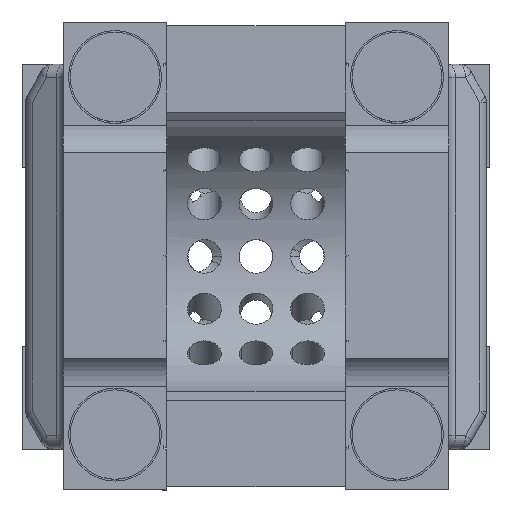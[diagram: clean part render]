
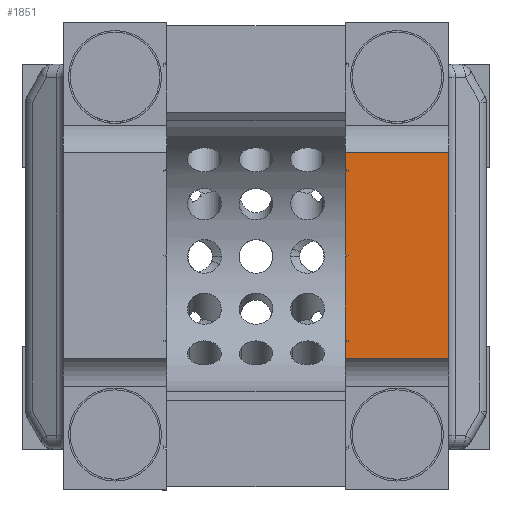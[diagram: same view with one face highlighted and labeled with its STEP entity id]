
A CAD part, top view. The second image highlights one B-rep face of the part: STEP entity #1851.
In plain terms, the highlighted planar face has unit normal (0, 0, 1).
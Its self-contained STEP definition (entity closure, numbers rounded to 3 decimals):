
#1851=ADVANCED_FACE('Solid.14',(#4083),#4084,.T.);
#4083=FACE_OUTER_BOUND('',#6708,.T.);
#4084=PLANE('',#6709);
#6708=EDGE_LOOP('',(#11981,#11982,#11983,#11984,#11985,#11986,#11987,#11988,#11989,#11990,#11991,#11992,#11993));
#6709=AXIS2_PLACEMENT_3D('',#11994,#11995,#11996);
#11981=ORIENTED_EDGE('',*,*,#16831,.T.);
#11982=ORIENTED_EDGE('',*,*,#17013,.T.);
#11983=ORIENTED_EDGE('',*,*,#16814,.F.);
#11984=ORIENTED_EDGE('',*,*,#17011,.F.);
#11985=ORIENTED_EDGE('',*,*,#16867,.T.);
#11986=ORIENTED_EDGE('',*,*,#16900,.F.);
#11987=ORIENTED_EDGE('',*,*,#16904,.T.);
#11988=ORIENTED_EDGE('',*,*,#16910,.T.);
#11989=ORIENTED_EDGE('',*,*,#16942,.T.);
#11990=ORIENTED_EDGE('',*,*,#16945,.F.);
#11991=ORIENTED_EDGE('',*,*,#16951,.T.);
#11992=ORIENTED_EDGE('',*,*,#16982,.F.);
#11993=ORIENTED_EDGE('',*,*,#16985,.T.);
#11994=CARTESIAN_POINT('',(13.0,15.0,56.25));
#11995=DIRECTION('',(0.,0.,1.0));
#11996=DIRECTION('',(0.,-1.0,0.));
#16814=EDGE_CURVE('',#20366,#20368,#20369,.T.);
#16831=EDGE_CURVE('',#20395,#20393,#20396,.T.);
#16867=EDGE_CURVE('',#20448,#20446,#20449,.T.);
#16900=EDGE_CURVE('',#20493,#20446,#20494,.T.);
#16904=EDGE_CURVE('',#20493,#20497,#20499,.T.);
#16910=EDGE_CURVE('',#20497,#20506,#20508,.T.);
#16942=EDGE_CURVE('',#20506,#20549,#20551,.T.);
#16945=EDGE_CURVE('',#20553,#20549,#20555,.T.);
#16951=EDGE_CURVE('',#20553,#20562,#20564,.T.);
#16982=EDGE_CURVE('',#20605,#20562,#20606,.T.);
#16985=EDGE_CURVE('',#20605,#20395,#20609,.T.);
#17011=EDGE_CURVE('',#20448,#20366,#20641,.T.);
#17013=EDGE_CURVE('',#20393,#20368,#20643,.T.);
#20366=VERTEX_POINT('',#27995);
#20368=VERTEX_POINT('',#27997);
#20369=LINE('',#27998,#27999);
#20393=VERTEX_POINT('',#28032);
#20395=VERTEX_POINT('',#28034);
#20396=LINE('',#28035,#28036);
#20446=VERTEX_POINT('',#28111);
#20448=VERTEX_POINT('',#28114);
#20449=LINE('',#28115,#28116);
#20493=VERTEX_POINT('',#28182);
#20494=LINE('',#28183,#28184);
#20497=VERTEX_POINT('',#28188);
#20499=LINE('',#28191,#28192);
#20506=VERTEX_POINT('',#28202);
#20508=LINE('',#28205,#28206);
#20549=VERTEX_POINT('',#28268);
#20551=LINE('',#28271,#28272);
#20553=VERTEX_POINT('',#28274);
#20555=LINE('',#28277,#28278);
#20562=VERTEX_POINT('',#28288);
#20564=LINE('',#28291,#28292);
#20605=VERTEX_POINT('',#28354);
#20606=LINE('',#28355,#28356);
#20609=LINE('',#28360,#28361);
#20641=LINE('',#28406,#28407);
#20643=LINE('',#28409,#28410);
#27995=CARTESIAN_POINT('',(28.0,15.0,56.25));
#27997=CARTESIAN_POINT('',(28.,-15.0,56.25));
#27998=CARTESIAN_POINT('',(28.,0.,56.25));
#27999=VECTOR('',#32910,1.0);
#28032=CARTESIAN_POINT('',(13.,-15.0,56.25));
#28034=CARTESIAN_POINT('',(13.,-12.606,56.25));
#28035=CARTESIAN_POINT('',(13.,-13.803,56.25));
#28036=VECTOR('',#32932,1.0);
#28111=CARTESIAN_POINT('',(13.0,12.606,56.25));
#28114=CARTESIAN_POINT('',(13.0,15.0,56.25));
#28115=CARTESIAN_POINT('',(13.0,13.803,56.25));
#28116=VECTOR('',#32965,1.0);
#28182=CARTESIAN_POINT('',(13.4,12.426,56.25));
#28183=CARTESIAN_POINT('',(13.2,12.516,56.25));
#28184=VECTOR('',#32991,1.0);
#28188=CARTESIAN_POINT('',(13.0,12.247,56.25));
#28191=CARTESIAN_POINT('',(13.2,12.337,56.25));
#28192=VECTOR('',#32994,1.0);
#28202=CARTESIAN_POINT('',(13.,0.166,56.25));
#28205=CARTESIAN_POINT('',(13.,6.206,56.25));
#28206=VECTOR('',#32999,1.0);
#28268=CARTESIAN_POINT('',(13.4,0.,56.25));
#28271=CARTESIAN_POINT('',(13.2,0.083,56.25));
#28272=VECTOR('',#33022,1.0);
#28274=CARTESIAN_POINT('',(13.,-0.166,56.25));
#28277=CARTESIAN_POINT('',(13.2,-0.083,56.25));
#28278=VECTOR('',#33024,1.0);
#28288=CARTESIAN_POINT('',(13.,-12.247,56.25));
#28291=CARTESIAN_POINT('',(13.,-6.206,56.25));
#28292=VECTOR('',#33029,1.0);
#28354=CARTESIAN_POINT('',(13.4,-12.426,56.25));
#28355=CARTESIAN_POINT('',(13.2,-12.337,56.25));
#28356=VECTOR('',#33051,1.0);
#28360=CARTESIAN_POINT('',(13.2,-12.516,56.25));
#28361=VECTOR('',#33053,1.0);
#28406=CARTESIAN_POINT('',(20.5,15.0,56.25));
#28407=VECTOR('',#33073,1.0);
#28409=CARTESIAN_POINT('',(20.5,-15.0,56.25));
#28410=VECTOR('',#33074,1.0);
#32910=DIRECTION('',(0.,-1.0,0.0));
#32932=DIRECTION('',(0.,-1.0,0.0));
#32965=DIRECTION('',(0.,-1.0,0.0));
#32991=DIRECTION('',(-0.912,0.409,0.));
#32994=DIRECTION('',(-0.912,-0.409,0.0));
#32999=DIRECTION('',(0.,-1.0,0.0));
#33022=DIRECTION('',(0.924,-0.383,0.0));
#33024=DIRECTION('',(0.924,0.383,0.0));
#33029=DIRECTION('',(0.,-1.0,0.0));
#33051=DIRECTION('',(-0.912,0.409,0.));
#33053=DIRECTION('',(-0.912,-0.409,0.));
#33073=DIRECTION('',(1.0,0.,0.0));
#33074=DIRECTION('',(1.0,0.,0.0));
